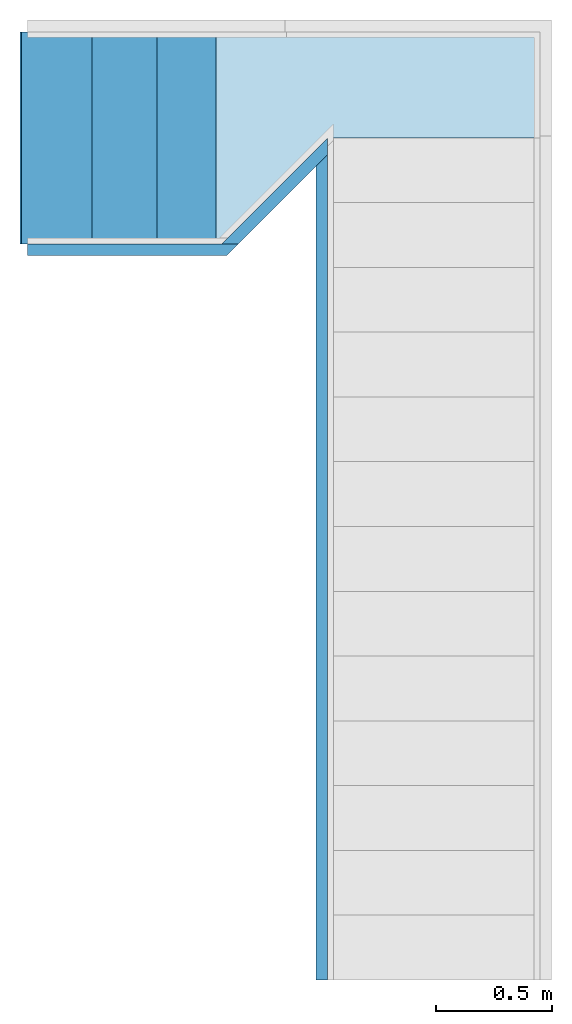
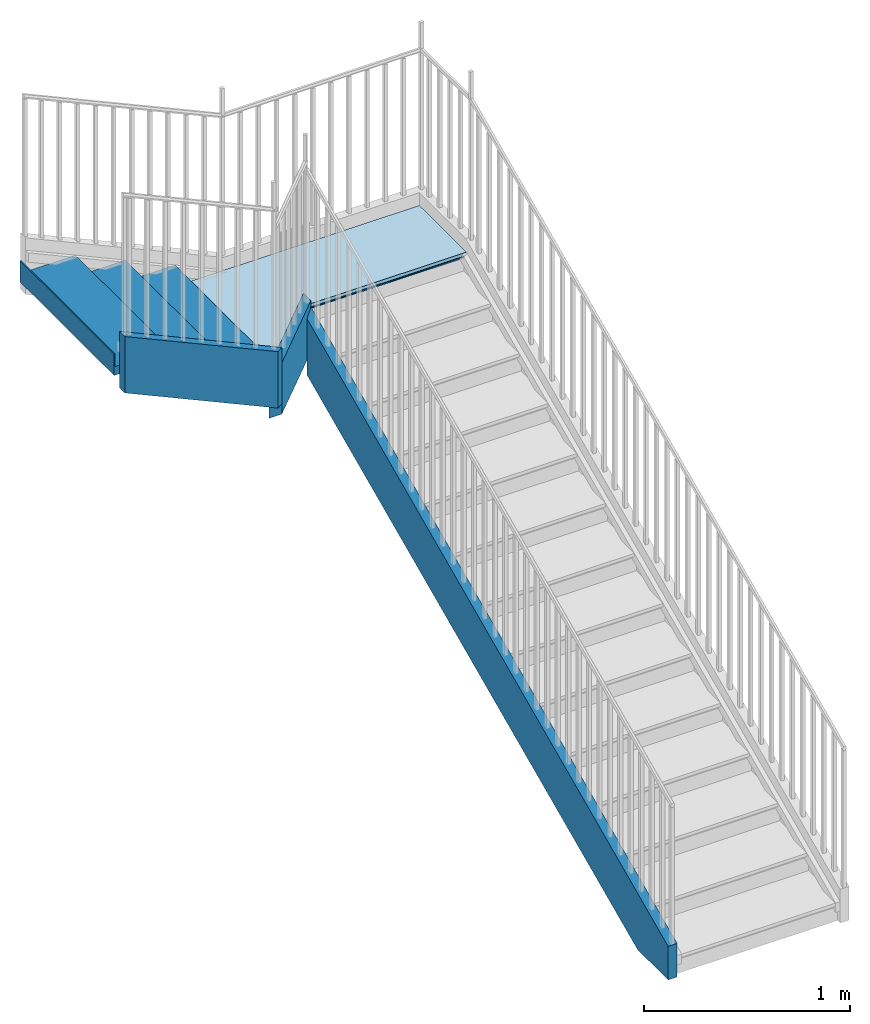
# One storey, part 1 of 2: 3 members, 1 slab, 1 stair flight, 1 element without a shape of its own.
"""IFC2X3 building model written with IfcOpenShell, lengths in feet."""

from ifc_helpers import new_model, entity, si_unit, converted_unit, derived_unit, direction, frame, frame_2d, origin, place, context, subcontext, project, spatial, polyline, rectangle, outline, extrude, faceted_brep, material, element, aggregate, save


model = new_model("IFC2X3")

# Units and contexts
model_context = context("Model", 3, precision=0.0001, world=origin(), true_north=direction((6.12303176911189e-17, 1.0)))
body_context = subcontext(model_context, "Body", "Model", "MODEL_VIEW")
ifc_project = project(units=[converted_unit("LENGTHUNIT", "FOOT", entity("IfcRatioMeasure", 0.3048), si_unit("LENGTHUNIT", "METRE"), dimensions=[1, 0, 0, 0, 0, 0, 0]), converted_unit("AREAUNIT", "SQUARE FOOT", entity("IfcRatioMeasure", 0.09290304), si_unit("AREAUNIT", "SQUARE_METRE"), dimensions=[2, 0, 0, 0, 0, 0, 0]), converted_unit("VOLUMEUNIT", "CUBIC FOOT", entity("IfcRatioMeasure", 0.028316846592), si_unit("VOLUMEUNIT", "CUBIC_METRE"), dimensions=[3, 0, 0, 0, 0, 0, 0]), converted_unit("PLANEANGLEUNIT", "DEGREE", entity("IfcRatioMeasure", 0.0174532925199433), si_unit("PLANEANGLEUNIT", "RADIAN"), dimensions=[0, 0, 0, 0, 0, 0, 0]), si_unit("MASSUNIT", "GRAM", prefix="KILO"), derived_unit("MASSDENSITYUNIT", [(si_unit("MASSUNIT", "GRAM", prefix="KILO"), 1), (si_unit("LENGTHUNIT", "METRE"), -3)]), si_unit("TIMEUNIT", "SECOND"), si_unit("FREQUENCYUNIT", "HERTZ"), si_unit("THERMODYNAMICTEMPERATUREUNIT", "DEGREE_CELSIUS"), derived_unit("THERMALTRANSMITTANCEUNIT", [(si_unit("MASSUNIT", "GRAM", prefix="KILO"), 1), (si_unit("THERMODYNAMICTEMPERATUREUNIT", "KELVIN"), -1), (si_unit("TIMEUNIT", "SECOND"), -3)]), derived_unit("VOLUMETRICFLOWRATEUNIT", [(si_unit("LENGTHUNIT", "METRE"), 3), (si_unit("TIMEUNIT", "SECOND"), -1)]), si_unit("ELECTRICCURRENTUNIT", "AMPERE"), si_unit("ELECTRICVOLTAGEUNIT", "VOLT"), si_unit("POWERUNIT", "WATT"), si_unit("FORCEUNIT", "NEWTON"), si_unit("ILLUMINANCEUNIT", "LUX"), si_unit("LUMINOUSFLUXUNIT", "LUMEN"), si_unit("LUMINOUSINTENSITYUNIT", "CANDELA"), derived_unit("USERDEFINED", [(si_unit("MASSUNIT", "GRAM", prefix="KILO"), -1), (si_unit("LENGTHUNIT", "METRE"), -2), (si_unit("TIMEUNIT", "SECOND"), 3), (si_unit("LUMINOUSFLUXUNIT", "LUMEN"), 1)]), derived_unit("LINEARVELOCITYUNIT", [(si_unit("LENGTHUNIT", "METRE"), 1), (si_unit("TIMEUNIT", "SECOND"), -1)]), si_unit("PRESSUREUNIT", "PASCAL"), derived_unit("USERDEFINED", [(si_unit("LENGTHUNIT", "METRE"), -2), (si_unit("MASSUNIT", "GRAM", prefix="KILO"), 1), (si_unit("TIMEUNIT", "SECOND"), -2)])], contexts=[model_context])

# Site, building, storey
site_placement = place(None, origin())
site = spatial("IfcSite", under=ifc_project, at=site_placement, Name="表面", CompositionType="ELEMENT")
building_placement = place(site_placement, origin())
building = spatial("IfcBuilding", under=site, at=building_placement, CompositionType="ELEMENT")
storey_placement = place(building_placement, frame((0.0, 0.0, -10.0)))
storey = spatial("IfcBuildingStorey", under=building, at=storey_placement, Name="HULL", CompositionType="ELEMENT", Elevation=-10.0)

# Stair, members, slab, stair flight
stair_placement = place(storey_placement, origin())
stair = element("IfcStair", 1, at=stair_placement, inside=storey, Name="楼梯:7\" max riser 11\" tread", ObjectType="楼梯:7\" max riser 11\" tread", ShapeType="NOTDEFINED")
ifc_material = material(Name="Metal - Aluminum")
member_1_placement = place(stair_placement, origin())
member_1 = element("IfcMember", 2, at=member_1_placement, material=ifc_material, Name="楼梯:7\" max riser 11\" tread:2", ObjectType="楼梯:7\" max riser 11\" tread", context=body_context, shape_type="Brep", body=[
    faceted_brep([(12.4650869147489, -2.37854944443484, 3.15559800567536), (12.2984202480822, -2.37854944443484, 3.15559800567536), (12.2984202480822, -2.37854944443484, 2.5), (12.4650869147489, -2.37854944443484, 2.5), (12.4650869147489, 9.30241496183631, 8.46512728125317), (12.4650869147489, 9.30241496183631, 7.36666855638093), (12.2984202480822, 9.13574829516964, 7.29091098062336), (12.2984202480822, 9.13574829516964, 8.38936970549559), (12.2984202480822, -1.40425586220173, 2.5), (12.4650869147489, -1.40425586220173, 2.5)], [[[0, 1, 2, 3]], [[4, 5, 6, 7]], [[3, 2, 8, 9]], [[1, 0, 4, 7]], [[2, 1, 7, 6, 8]], [[8, 6, 5, 9]], [[0, 3, 9, 5, 4]]]),
])
member_2_placement = place(stair_placement, origin())
member_2 = element("IfcMember", 3, at=member_2_placement, material=ifc_material, Name="楼梯:7\" max riser 11\" tread:3", ObjectType="楼梯:7\" max riser 11\" tread", context=body_context, shape_type="Brep", body=[
    faceted_brep([(11.2007891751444, 8.03811722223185, 8.88179394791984), (11.0341225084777, 7.87145055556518, 8.95755152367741), (11.0341225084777, 7.87145055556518, 7.85909279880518), (11.2007891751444, 8.03811722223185, 7.7833352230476), (8.21508691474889, 8.03811722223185, 10.2389313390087), (8.21508691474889, 8.03811722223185, 9.14047261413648), (8.21508691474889, 7.87145055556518, 9.14047261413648), (8.21508691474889, 7.87145055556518, 10.2389313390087)], [[[0, 1, 2, 3]], [[4, 5, 6, 7]], [[1, 0, 4, 7]], [[2, 1, 7, 6]], [[3, 2, 6, 5]], [[0, 3, 5, 4]]]),
])
member_3_placement = place(stair_placement, origin())
member_3 = element("IfcMember", 4, at=member_3_placement, material=ifc_material, Name="楼梯:7\" max riser 11\" tread:4", ObjectType="楼梯:7\" max riser 11\" tread", context=body_context, shape_type="SweptSolid", body=[
    extrude(outline(polyline([(-1.06066017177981, -0.0833333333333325), (1.06066017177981, -0.0833333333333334), (0.893993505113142, 0.083333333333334), (-0.893993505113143, 0.0833333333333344), (-1.06066017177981, -0.0833333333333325)])), frame((11.7740124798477, 8.72919165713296, 7.58333333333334), z_axis=(0.0, 0.0, 1.0), x_axis=(-0.707106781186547, -0.707106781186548, 0.0)), (0.0, 0.0, 1.0), 1.0),
])
slab_placement = place(stair_placement, origin())
slab = element("IfcSlab", 5, at=slab_placement, material=ifc_material, Name="楼梯:7\" max riser 11\" tread:1", ObjectType="楼梯:7\" max riser 11\" tread", PredefinedType="LANDING", context=body_context, shape_type="Brep", body=[
    faceted_brep([(10.8817535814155, 8.03811722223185, 8.33333333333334), (10.9650869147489, 8.03811722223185, 8.33333333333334), (12.4650869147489, 9.53811722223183, 8.33333333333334), (15.4650869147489, 9.53811722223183, 8.33333333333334), (15.4650869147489, 11.0381172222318, 8.33333333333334), (10.9650869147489, 11.0381172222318, 8.33333333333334), (10.8817535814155, 11.0381172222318, 8.33333333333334), (10.9650869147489, 8.03811722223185, 8.16666666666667), (10.8817535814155, 8.03811722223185, 8.16666666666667), (10.8817535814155, 11.0381172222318, 8.16666666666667), (10.9650869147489, 11.0381172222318, 8.16666666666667), (15.4650869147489, 11.0381172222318, 8.16666666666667), (15.4650869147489, 9.62145055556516, 8.16666666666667), (12.5484202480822, 9.62145055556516, 8.16666666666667), (12.5484202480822, 9.62145055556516, 8.18750000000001), (12.4650869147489, 9.53811722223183, 8.27083333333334), (15.4650869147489, 9.62145055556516, 8.18750000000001), (15.4650869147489, 9.53811722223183, 8.27083333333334)], [[[0, 1, 2, 3, 4, 5, 6]], [[7, 8, 9, 10, 11, 12, 13]], [[1, 0, 8, 7]], [[7, 13, 14, 15, 2, 1]], [[13, 12, 16, 14]], [[4, 3, 17, 16, 12, 11]], [[5, 4, 11, 10]], [[6, 5, 10, 9]], [[0, 6, 9, 8]], [[17, 3, 2, 15]], [[16, 17, 15, 14]]]),
])
stair_flight_placement = place(stair_placement, origin())
stair_flight = element("IfcStairFlight", 6, at=stair_flight_placement, material=ifc_material, Name="楼梯:7\" max riser 11\" tread:2", ObjectType="楼梯:7\" max riser 11\" tread", NumberOfRiser=4, NumberOfTreads=3, RiserHeight=0.416666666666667, TreadLength=0.91666666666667, context=body_context, shape_type="SweptSolid", body=[
    extrude(rectangle(XDim=2.99999999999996, YDim=0.0208333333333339, at=frame_2d((8.88178419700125e-16, -8.88178419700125e-16), x_axis=(1.0, 0.0))), frame((10.8713369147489, 9.53811722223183, 8.16666666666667), z_axis=(0.0, 0.0, 1.0), x_axis=(0.0, -1.0, 0.0)), (0.0, 0.0, 1.0), 0.416666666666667),
    extrude(outline(polyline([(-0.0902777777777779, -0.361111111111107), (-0.0277777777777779, -0.361111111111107), (0.0555555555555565, -0.277777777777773), (0.0763888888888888, -0.277777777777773), (0.0763888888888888, 0.638888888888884), (-0.0902777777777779, 0.638888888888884), (-0.0902777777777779, -0.361111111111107)])), frame((10.6039758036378, 8.03811722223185, 8.65972222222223), z_axis=(0.0, 1.0, 0.0), x_axis=(0.0, 0.0, -1.0)), (0.0, 0.0, 1.0), 2.99999999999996),
    extrude(rectangle(XDim=2.99999999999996, YDim=0.0208333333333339, at=frame_2d((8.88178419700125e-16, -8.88178419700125e-16), x_axis=(1.0, 0.0))), frame((9.95467024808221, 9.53811722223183, 8.58333333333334), z_axis=(0.0, 0.0, 1.0), x_axis=(0.0, -1.0, 0.0)), (0.0, 0.0, 1.0), 0.416666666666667),
    extrude(outline(polyline([(-0.0902777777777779, -0.361111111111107), (-0.0277777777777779, -0.361111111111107), (0.0555555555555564, -0.277777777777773), (0.0763888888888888, -0.277777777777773), (0.0763888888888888, 0.638888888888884), (-0.0902777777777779, 0.638888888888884), (-0.0902777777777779, -0.361111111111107)])), frame((9.68730913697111, 8.03811722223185, 9.07638888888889), z_axis=(0.0, 1.0, 0.0), x_axis=(0.0, 0.0, -1.0)), (0.0, 0.0, 1.0), 2.99999999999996),
    extrude(rectangle(XDim=2.99999999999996, YDim=0.0208333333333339, at=frame_2d((8.88178419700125e-16, 8.88178419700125e-16), x_axis=(1.0, 0.0))), frame((8.12133691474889, 9.53811722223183, 9.41666666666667), z_axis=(0.0, 0.0, 1.0), x_axis=(0.0, -1.0, 0.0)), (0.0, 0.0, 1.0), 0.416666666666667),
    extrude(rectangle(XDim=2.99999999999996, YDim=0.0208333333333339, at=frame_2d((8.88178419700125e-16, 8.88178419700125e-16), x_axis=(1.0, 0.0))), frame((9.03800358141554, 9.53811722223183, 9.0), z_axis=(0.0, 0.0, 1.0), x_axis=(0.0, -1.0, 0.0)), (0.0, 0.0, 1.0), 0.416666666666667),
    extrude(outline(polyline([(-0.0902777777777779, -0.361111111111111), (-0.0277777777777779, -0.361111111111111), (0.0555555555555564, -0.277777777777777), (0.0763888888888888, -0.277777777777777), (0.0763888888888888, 0.63888888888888), (-0.0902777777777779, 0.63888888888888), (-0.0902777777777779, -0.361111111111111)])), frame((8.77064247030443, 8.03811722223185, 9.49305555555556), z_axis=(0.0, 1.0, 0.0), x_axis=(0.0, 0.0, -1.0)), (0.0, 0.0, 1.0), 2.99999999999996),
])
aggregate(stair, [stair_flight, slab, member_1, member_2, member_3])

save(model, "model.ifc")
